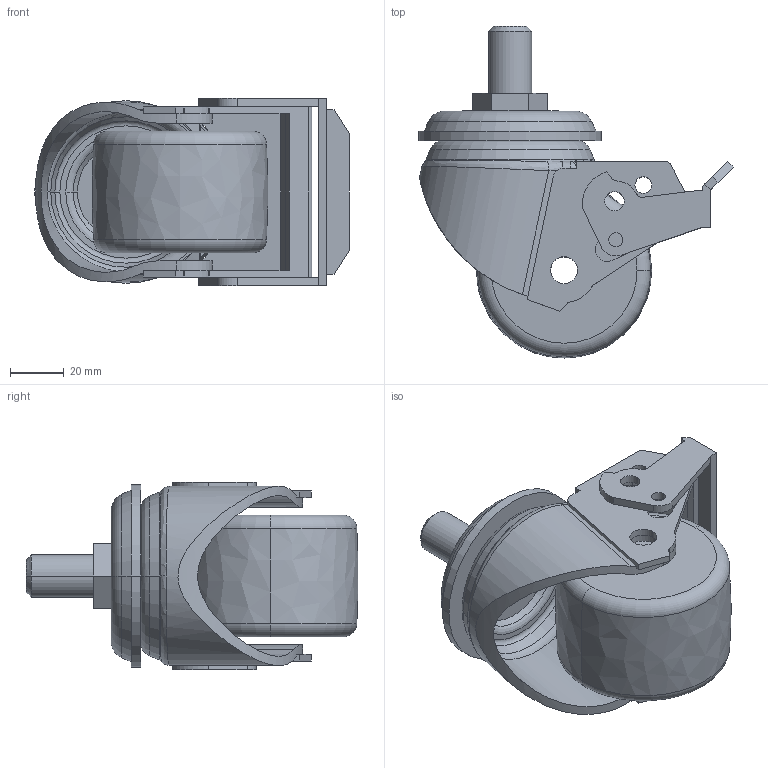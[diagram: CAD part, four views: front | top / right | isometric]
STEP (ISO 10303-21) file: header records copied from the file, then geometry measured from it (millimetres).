
FILE_DESCRIPTION((''),'2;1');
FILE_NAME('M453325_ASM','2024-01-23T',('Lenovo'),(''),'PRO/ENGINEER BY PARAMETRIC TECHNOLOGY CORPORATION, 2010280','PRO/ENGINEER BY PARAMETRIC TECHNOLOGY CORPORATION, 2010280','');
FILE_SCHEMA(('CONFIG_CONTROL_DESIGN'));
Length unit declared in the file: millimetre
Products named in the file (7): M45325-311; M4530-211; M4530-053; M4525-916; M45325-535; M4530-531; M453325_ASM
Assembly tree (6 placements, depth 2):
  M453325_ASM
    M45325-311
    M4530-211
    M4530-053
    M4525-916
    M45325-535
    M4530-531
Bounding box: 116.52 x 122.95 x 69.5 mm (x, y, z)
Volume: 235068.1 mm3; surface area: 70728.6 mm2
Topology: 6 solids, 6 shells, 216 faces, 567 edges, 361 vertices
Faces by surface type: cylinder 85, plane 80, torus 22, cone 16, bspline 11, sphere 2
Entity records: 7773 total; most frequent: CARTESIAN_POINT 2179, DIRECTION 1185, ORIENTED_EDGE 1134, EDGE_CURVE 567, AXIS2_PLACEMENT_3D 456, VERTEX_POINT 361, VECTOR 273, LINE 273
